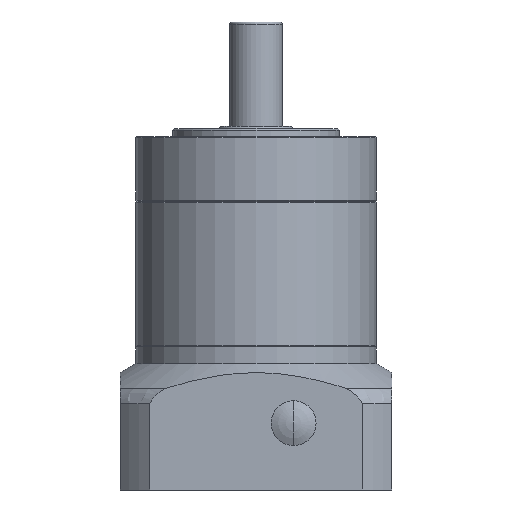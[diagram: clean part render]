
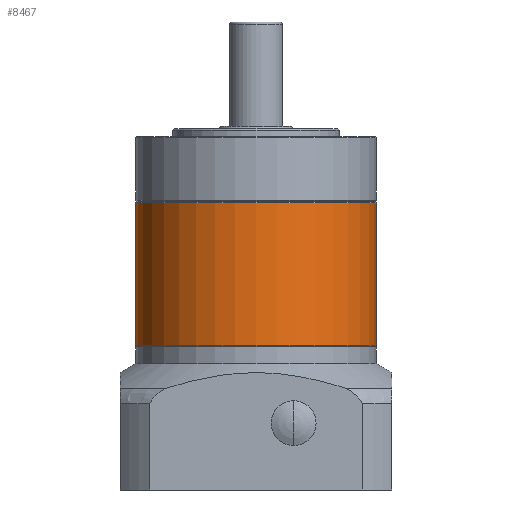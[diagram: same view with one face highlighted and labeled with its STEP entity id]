
A CAD part, front view. The second image highlights one B-rep face of the part: STEP entity #8467.
In plain terms, the highlighted cylindrical face has radius 57.5 mm (diameter 115 mm), a partial arc.
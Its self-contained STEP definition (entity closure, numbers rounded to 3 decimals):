
#507 = CARTESIAN_POINT ( 'NONE',  ( 0., 0., 34.25 ) ) ;
#1266 = CARTESIAN_POINT ( 'NONE',  ( 57.5, 0., -34.25 ) ) ;
#2165 = DIRECTION ( 'NONE',  ( -1., 0., 0. ) ) ;
#3330 = CIRCLE ( 'NONE', #29313, 57.5 ) ;
#4764 = DIRECTION ( 'NONE',  ( 0., 0., -1. ) ) ;
#5103 = EDGE_CURVE ( 'NONE', #27486, #7830, #16587, .T. ) ;
#5248 = CARTESIAN_POINT ( 'NONE',  ( 0., 0., 34.25 ) ) ;
#5290 = DIRECTION ( 'NONE',  ( -1., 0., 0. ) ) ;
#6410 = ORIENTED_EDGE ( 'NONE', *, *, #23891, .T. ) ;
#7230 = LINE ( 'NONE', #17977, #19223 ) ;
#7286 = CARTESIAN_POINT ( 'NONE',  ( -57.5, 0., -34.25 ) ) ;
#7413 = ORIENTED_EDGE ( 'NONE', *, *, #5103, .F. ) ;
#7830 = VERTEX_POINT ( 'NONE', #1266 ) ;
#8467 = ADVANCED_FACE ( 'NONE', ( #24773 ), #9649, .T. ) ;
#9649 = CYLINDRICAL_SURFACE ( 'NONE', #30043, 57.5 ) ;
#10155 = VECTOR ( 'NONE', #19664, 1000. ) ;
#13123 = AXIS2_PLACEMENT_3D ( 'NONE', #19829, #19860, #19895 ) ;
#13170 = CARTESIAN_POINT ( 'NONE',  ( -57.5, 0., 34.25 ) ) ;
#13355 = VERTEX_POINT ( 'NONE', #7286 ) ;
#13466 = ORIENTED_EDGE ( 'NONE', *, *, #21979, .F. ) ;
#14388 = DIRECTION ( 'NONE',  ( 0., 0., 1. ) ) ;
#14435 = CIRCLE ( 'NONE', #13123, 57.5 ) ;
#16587 = LINE ( 'NONE', #19732, #10155 ) ;
#17977 = CARTESIAN_POINT ( 'NONE',  ( -57.5, 0., 34.25 ) ) ;
#18330 = VERTEX_POINT ( 'NONE', #13170 ) ;
#18373 = DIRECTION ( 'NONE',  ( 0., 0., -1. ) ) ;
#18667 = EDGE_CURVE ( 'NONE', #18330, #13355, #7230, .T. ) ;
#19223 = VECTOR ( 'NONE', #18373, 1000. ) ;
#19664 = DIRECTION ( 'NONE',  ( 0., 0., -1. ) ) ;
#19732 = CARTESIAN_POINT ( 'NONE',  ( 57.5, 0., 34.25 ) ) ;
#19829 = CARTESIAN_POINT ( 'NONE',  ( 0., 0., -34.25 ) ) ;
#19860 = DIRECTION ( 'NONE',  ( 0., 0., 1. ) ) ;
#19895 = DIRECTION ( 'NONE',  ( 1., 0., 0. ) ) ;
#21979 = EDGE_CURVE ( 'NONE', #18330, #27486, #3330, .T. ) ;
#23891 = EDGE_CURVE ( 'NONE', #13355, #7830, #14435, .T. ) ;
#24773 = FACE_OUTER_BOUND ( 'NONE', #29483, .T. ) ;
#26814 = CARTESIAN_POINT ( 'NONE',  ( 57.5, 0., 34.25 ) ) ;
#27486 = VERTEX_POINT ( 'NONE', #26814 ) ;
#29313 = AXIS2_PLACEMENT_3D ( 'NONE', #507, #14388, #2165 ) ;
#29483 = EDGE_LOOP ( 'NONE', ( #7413, #13466, #31063, #6410 ) ) ;
#30043 = AXIS2_PLACEMENT_3D ( 'NONE', #5248, #4764, #5290 ) ;
#31063 = ORIENTED_EDGE ( 'NONE', *, *, #18667, .T. ) ;
